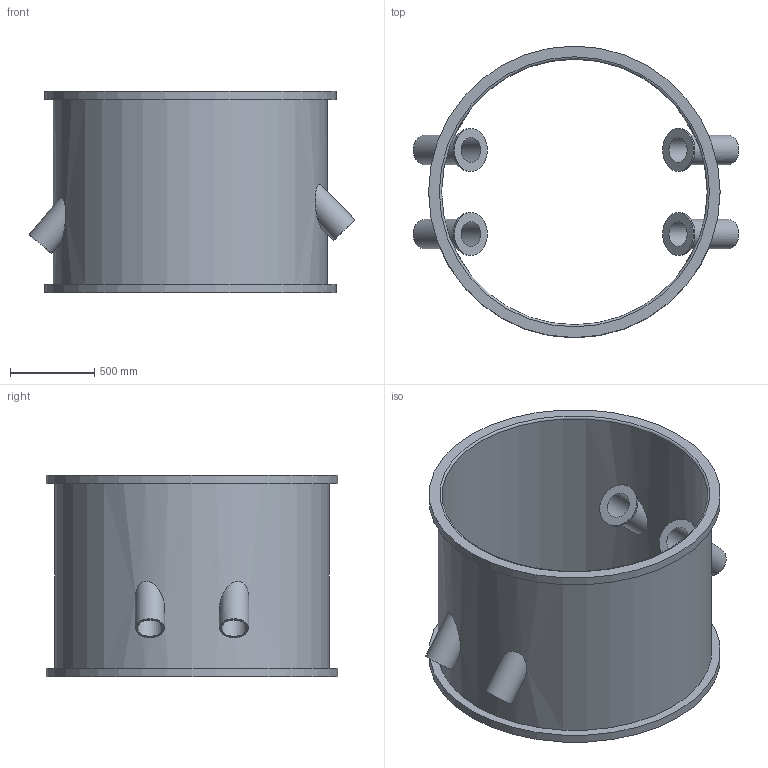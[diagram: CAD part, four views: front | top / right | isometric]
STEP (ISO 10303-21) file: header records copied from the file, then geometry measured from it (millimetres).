
FILE_DESCRIPTION( ( 'Unknown' ), '1' );
FILE_NAME( 'C:/Users/work/Documents/Solid Edge/heavy_gas_cherenkov/step/vessel.step', 'Unknown', ( 'Unknown' ), ( 'Unknown' ), 'PSStep 10.1', 'Unknown', ' ' );
FILE_SCHEMA( ( 'AUTOMOTIVE_DESIGN { 1 0 10303 214 1 1 1 1 }' ) );
Length unit declared in the file: millimetre
Products named in the file (1): 1
Bounding box: 1936.37 x 1732.4 x 1196.37 mm (x, y, z)
Volume: 188897480.8 mm3; surface area: 15021120.7 mm2
Topology: 1 solids, 1 shells, 38 faces, 69 edges, 47 vertices
Faces by surface type: cylinder 20, plane 16, torus 2
Full cylindrical faces by diameter (mm): 150 x4, 175.4 x8, 255.4 x4, 1580 x1, 1630.8 x1, 1732.4 x2
Entity records: 2474 total; most frequent: CARTESIAN_POINT 1477, DIRECTION 146, EDGE_LOOP 84, ORIENTED_EDGE 84, AXIS2_PLACEMENT_3D 73, FACE_OUTER_BOUND 60, EDGE_CURVE 42, VERTEX_POINT 42
